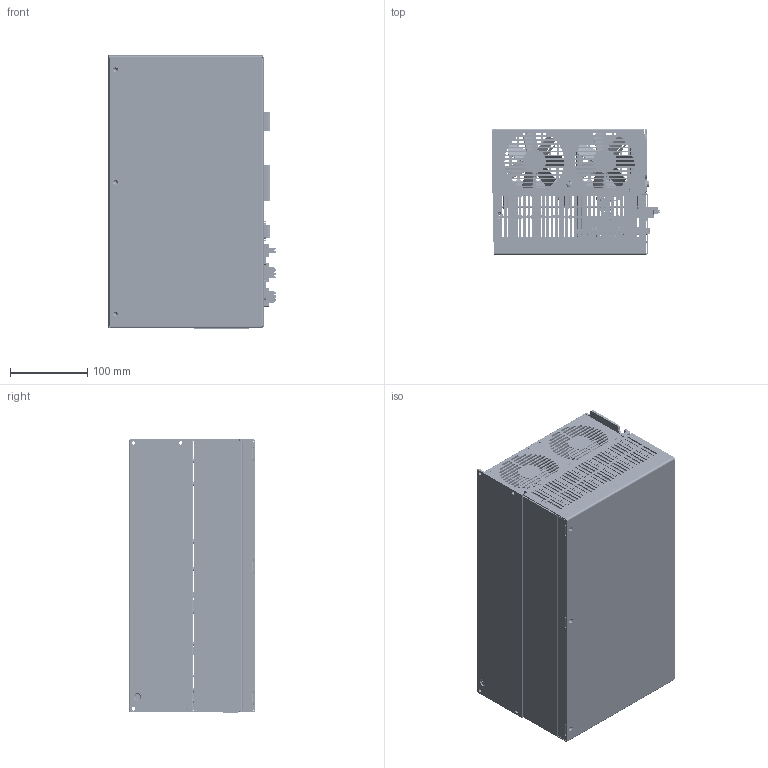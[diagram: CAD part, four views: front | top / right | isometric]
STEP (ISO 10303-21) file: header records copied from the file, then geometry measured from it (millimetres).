
FILE_DESCRIPTION((''),'2;1');
FILE_NAME('MECH_1_ASM','2023-03-22T',('wusong22'),(''),'CREO PARAMETRIC BY PTC INC, 2016260','CREO PARAMETRIC BY PTC INC, 2016260','');
FILE_SCHEMA(('CONFIG_CONTROL_DESIGN'));
Products named in the file (11): 400_480_VAC_CDHD-024_CDHD-030_; BRAKE_CONNECTOR_12A; PCB-CDHD2S_V2_; 15EDGRM-3_5-02P-14-00A_H_; 15EDGKNM-3_5-02P-14-1000A_H_; 15EDGRM-3_5-04P-14-00A_H_; 15EDGKNM-3_5-04P-14-1000A_H_; HSKR00903070-13; MECR09030710-00; MECR09030711-00; MECH_1_ASM
Assembly tree (12 placements, depth 2):
  MECH_1_ASM
    400_480_VAC_CDHD-024_CDHD-030_
    BRAKE_CONNECTOR_12A
    PCB-CDHD2S_V2_
    15EDGRM-3_5-02P-14-00A_H_
    15EDGKNM-3_5-02P-14-1000A_H_
    15EDGRM-3_5-04P-14-00A_H_  x2
    15EDGKNM-3_5-04P-14-1000A_H_  x2
    HSKR00903070-13
    MECR09030710-00
    MECR09030711-00
Bounding box: 216.45 x 163.3 x 353.26 mm (x, y, z)
Volume: 2529651 mm3; surface area: 2762829.5 mm2
Topology: 12 solids, 256 shells, 24038 faces, 66209 edges, 42442 vertices
Faces by surface type: plane 15861, cylinder 5917, cone 1744, bspline 268, torus 120, sphere 80, extrusion 48
Entity records: 751611 total; most frequent: CARTESIAN_POINT 172273, ORIENTED_EDGE 123340, DIRECTION 115321, EDGE_CURVE 62026, VECTOR 45183, LINE 45135, VERTEX_POINT 39803, AXIS2_PLACEMENT_3D 35069
